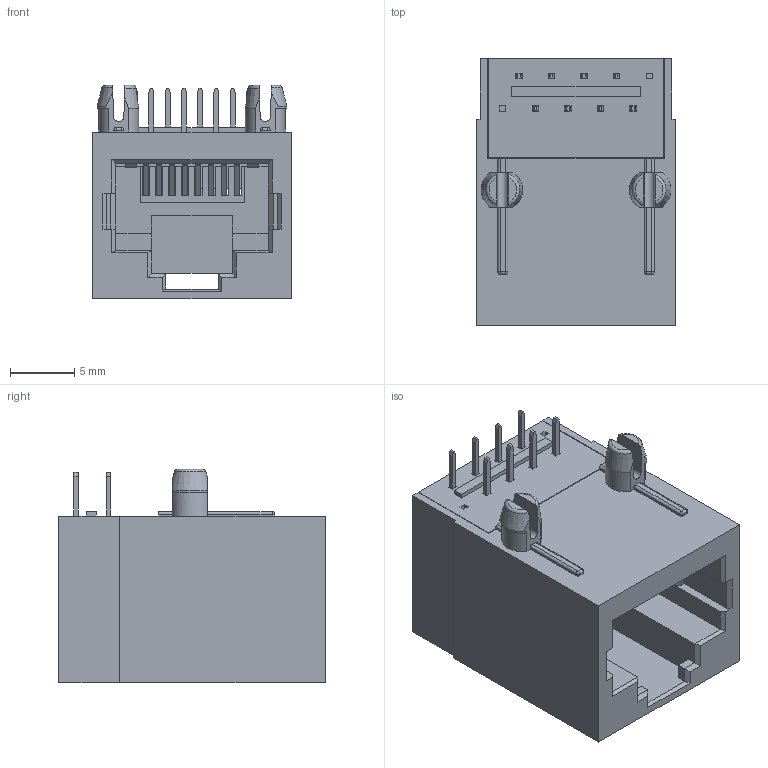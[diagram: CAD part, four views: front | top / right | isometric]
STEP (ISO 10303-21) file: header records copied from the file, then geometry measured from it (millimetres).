
FILE_DESCRIPTION((''),'2;1');
FILE_NAME('DGKYD211B002KD2A4D_ASM','2026-03-26T17:25:03',('DGKYD'),(''),'CREO PARAMETRIC BY PTC INC, 2019010','CREO PARAMETRIC BY PTC INC, 2019010','');
FILE_SCHEMA(('CONFIG_CONTROL_DESIGN'));
Length unit declared in the file: millimetre
Products named in the file (7): DGKYD211B083KD2A4D_1_1; DGKYD211B083KD2A4D_1_2; DGKYD211B083KD2A4D_1_3; DGKYD211B083KD2A4D_1_4; DGKYD211B083KD2A4D_1_5; DGKYD211B083KD2A4D_1_ASM; DGKYD211B002KD2A4D_ASM
Assembly tree (6 placements, depth 3):
  DGKYD211B002KD2A4D_ASM
    DGKYD211B083KD2A4D_1_ASM
      DGKYD211B083KD2A4D_1_1
      DGKYD211B083KD2A4D_1_2
      DGKYD211B083KD2A4D_1_3
      DGKYD211B083KD2A4D_1_4
      DGKYD211B083KD2A4D_1_5
Bounding box: 15.5 x 20.8 x 16.65 mm (x, y, z)
Volume: 1739.6 mm3; surface area: 3958.6 mm2
Topology: 5 solids, 5 shells, 740 faces, 2231 edges, 1452 vertices
Faces by surface type: plane 656, cylinder 72, cone 4, torus 4, sphere 4
Entity records: 24952 total; most frequent: CARTESIAN_POINT 4606, ORIENTED_EDGE 4454, DIRECTION 3881, EDGE_CURVE 2227, VECTOR 2013, LINE 2013, VERTEX_POINT 1452, AXIS2_PLACEMENT_3D 934
